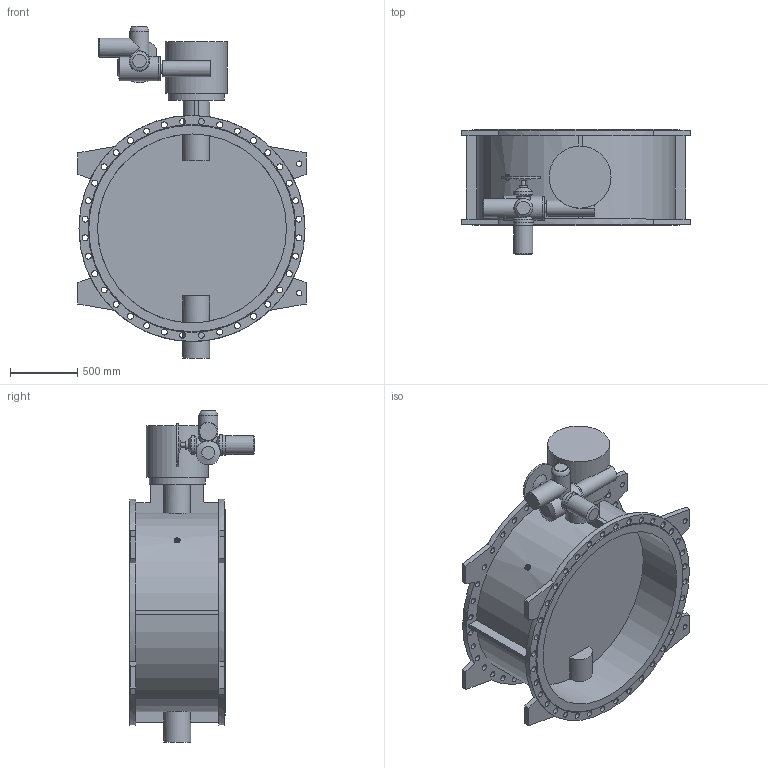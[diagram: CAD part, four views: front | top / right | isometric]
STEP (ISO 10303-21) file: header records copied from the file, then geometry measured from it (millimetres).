
FILE_DESCRIPTION(('STEP AP203'), '1');
FILE_NAME('Çàòâîð 023F.Z DN1400 PN10 + ðåäóêòîð + ÌÒ903.À30', '', ('UNSPECIFIED'), ('UNSPECIFIED'), 'ASCON STEP Converter 1.6', 'ASCON Math Kernel', '');
FILE_SCHEMA(('CONFIG_CONTROL_DESIGN'));
Length unit declared in the file: millimetre
Bounding box: 1690 x 929 x 2460 mm (x, y, z)
Volume: 442781849.5 mm3; surface area: 14614287.9 mm2
Topology: 1 solids, 1 shells, 268 faces, 664 edges, 438 vertices
Faces by surface type: cylinder 142, plane 114, cone 11, torus 1
Full cylindrical faces by diameter (mm): 14 x4, 18 x4, 27 x8, 32 x1, 33 x8, 40 x4, 44 x72, 60 x1, 70 x1, 100 x1, 120 x1, 140 x4, 147 x1, 151 x1, 175 x1, 180 x1, 200 x1, 415 x1, 460 x1, 1400 x2, 1675 x2
Entity records: 11716 total; most frequent: CARTESIAN_POINT 3188, DIRECTION 1327, ORIENTED_EDGE 1060, EDGE_LOOP 591, AXIS2_PLACEMENT_3D 568, EDGE_CURVE 530, VERTEX_POINT 437, FACE_BOUND 340
